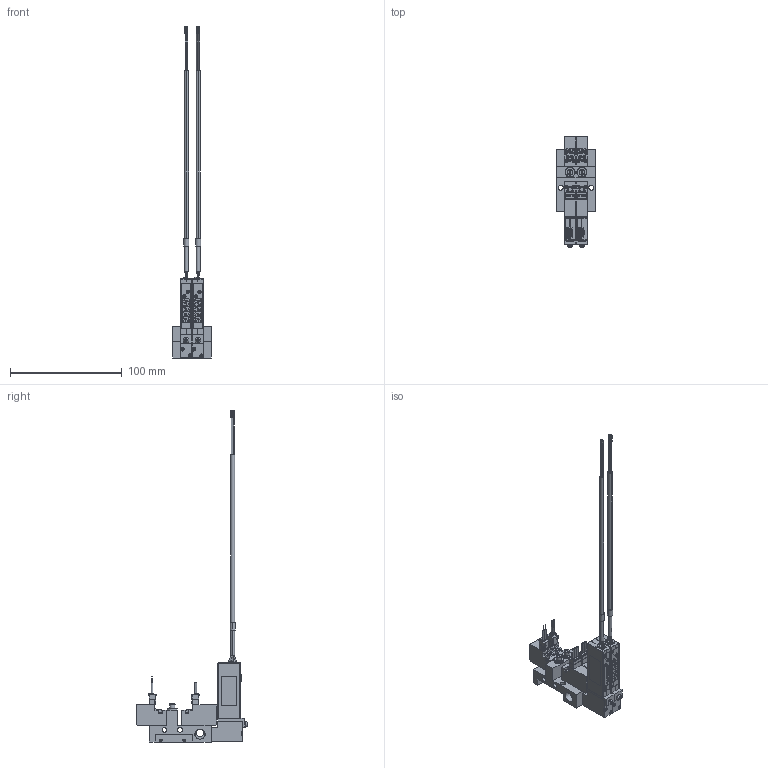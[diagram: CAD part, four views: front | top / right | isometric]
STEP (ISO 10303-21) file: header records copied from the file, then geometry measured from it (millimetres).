
FILE_DESCRIPTION(('STEP AP203'),'1');
FILE_NAME('1-L-4EZ-M02-V9.stp','2025-05-09T01:12:20',(' '),(' '),'Spatial InterOp 3D',' ',' ');
FILE_SCHEMA(('CONFIG_CONTROL_DESIGN'));
Length unit declared in the file: millimetre
Products named in the file (60): PV1※1-L-4EZ-M02-V9; BODY; PLATE; NEEDLE; BOLT; SOLENOID VALVE VOLTAGE PV; 42; 45; 48; 51; SOLENOID VALVE PV101-W; BRAKET(MPS-V9  PV-L용)NEW; BRAKET; MPS-V9AC.ics; __1; MPS-V9AC; MSBR-1_1; MSBR-4_1; MSBR-7_1; MSBR-21_1; MSBR-24_1; MSBR-25_1; MSBR-26_1; MSBR-27_1; MSBR-28_1; MSBR-29_1
Assembly tree (59 placements, depth 5):
  PV1※1-L-4EZ-M02-V9
    BODY
    PLATE
    PLATE
    NEEDLE
    NEEDLE
    BOLT
    BOLT
    BOLT
    BOLT
    BOLT
    BOLT
    SOLENOID VALVE VOLTAGE PV
      42
      45
      48
      51
    SOLENOID VALVE VOLTAGE PV
      42
      45
      48
      51
    SOLENOID VALVE PV101-W
    SOLENOID VALVE PV101-W
    BRAKET(MPS-V9  PV-L용)NEW
      BOLT
      BOLT
      BRAKET
      MPS-V9AC.ics
        __1
        MPS-V9AC
          MSBR-1_1
          MSBR-4_1
          MSBR-4_1
          MSBR-7_1
          MSBR-21_1
          MSBR-24_1
          MSBR-25_1
          MSBR-26_1
          MSBR-27_1
          MSBR-28_1
          MSBR-29_1
    BRAKET(MPS-V9  PV-L용)NEW
      BOLT
      BOLT
      BRAKET
      MPS-V9AC.ics
        __1
        MPS-V9AC
          MSBR-1_1
          MSBR-4_1
          MSBR-4_1
          MSBR-7_1
          MSBR-21_1
          MSBR-24_1
          MSBR-25_1
          MSBR-26_1
          MSBR-27_1
          MSBR-28_1
          MSBR-29_1
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Bounding box: 34.5 x 99.29 x 297.25 mm (x, y, z)
Volume: 62984.9 mm3; surface area: 52254.1 mm2
Topology: 49 solids, 67 shells, 2441 faces, 6632 edges, 4469 vertices
Faces by surface type: plane 1902, cylinder 411, torus 46, bspline 30, cone 24, extrusion 20, sphere 8
Full cylindrical faces by diameter (mm): 1.4 x6, 2 x6, 2.3 x4, 2.5 x2, 3 x14, 3.5 x2, 4.2 x6, 4.5 x2, 5 x4, 6.5 x1, 8.797 x2, 9 x2
Entity records: 80144 total; most frequent: CARTESIAN_POINT 15399, ORIENTED_EDGE 12796, DIRECTION 12414, EDGE_CURVE 6474, VECTOR 5032, LINE 5012, VERTEX_POINT 4416, AXIS2_PLACEMENT_3D 3691
